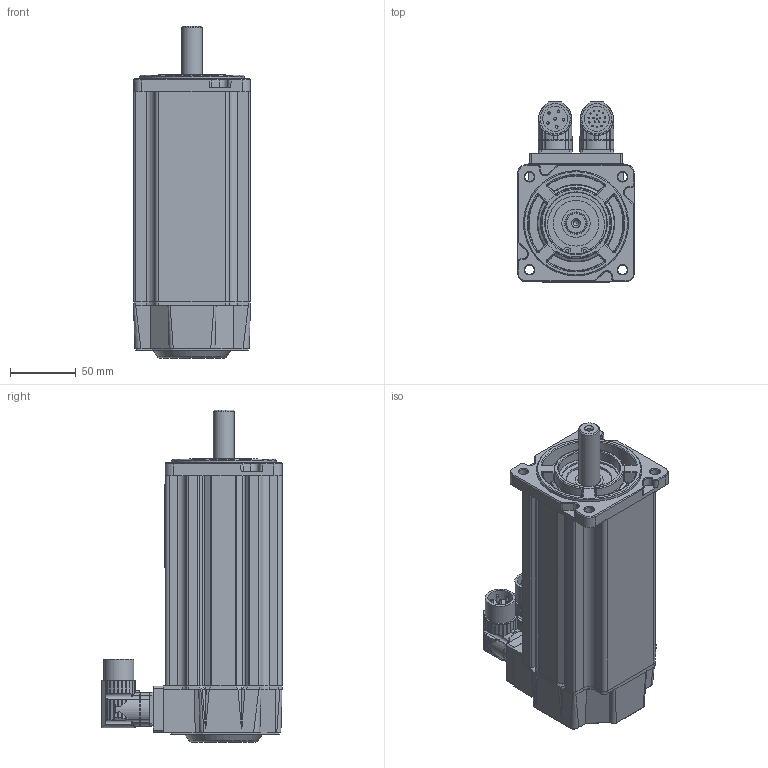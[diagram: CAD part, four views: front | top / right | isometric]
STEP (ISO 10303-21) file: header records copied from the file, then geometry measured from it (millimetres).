
FILE_DESCRIPTION((''),'2;1');
FILE_NAME('C:\CAD_work\Dummy_Modeling_Project_02-12-05\3D MODELS\MPP0923XXX_NPSB.stp','2005-12-20T17:02:06',('jevans'),(''),'Autodesk Inventor 10','Autodesk Inventor 10','');
FILE_SCHEMA(('AUTOMOTIVE_DESIGN { 1 0 10303 214 1 1 1 1 }'));
Length unit declared in the file: inch
Products named in the file (1): MPP092_MOTOR
Bounding box: 88.9 x 137.01 x 252.68 mm (x, y, z)
Volume: 1491493.6 mm3; surface area: 117107.1 mm2
Topology: 1 solids, 1 shells, 797 faces, 2073 edges, 1309 vertices
Faces by surface type: bspline 302, cylinder 249, plane 211, cone 24, torus 11
Full cylindrical faces by diameter (mm): 1.016 x17, 1.956 x6, 2.362 x2, 15.999 x1, 16.002 x1, 19.05 x1, 19.66 x1, 21.59 x1, 22.86 x1, 34.823 x1, 46.253 x1, 46.761 x1, 47.015 x2, 49.835 x1, 52.324 x1, 74.93 x1, 80 x1
Entity records: 35727 total; most frequent: CARTESIAN_POINT 18205, ORIENTED_EDGE 3998, DIRECTION 3012, EDGE_CURVE 1999, VERTEX_POINT 1299, AXIS2_PLACEMENT_3D 1127, EDGE_LOOP 924, FACE_OUTER_BOUND 797
